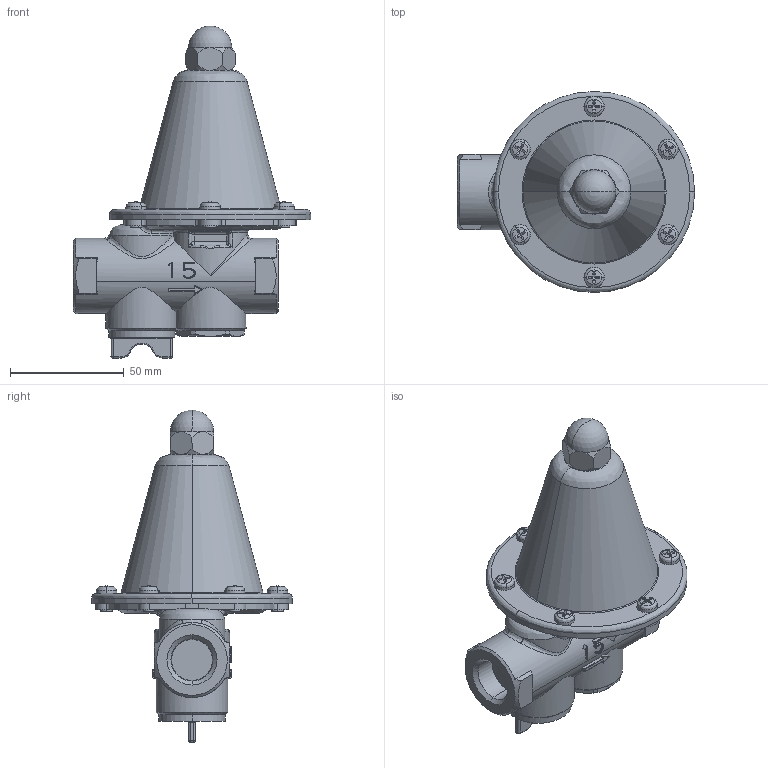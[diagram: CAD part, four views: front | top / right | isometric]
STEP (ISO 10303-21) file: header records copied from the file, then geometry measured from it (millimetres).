
FILE_DESCRIPTION( (''), '2;1');
FILE_NAME ('PC1056.968.GD-15(15A)_10084.stp','2024-08-30T15:40:12',(''),(''),'spGate 19.8.4 (****-****-****-****)','','');
FILE_SCHEMA (('AUTOMOTIVE_DESIGN'));
Length unit declared in the file: millimetre
Products named in the file (4): Assembly; GD-15(15A)弁箱P; CP_''_JIS B 1183 六角袋ナット 1形 M''_704; CP_ナベ''_JIS B 1111 なべ小ねじ M5x8_726
Assembly tree (8 placements, depth 2):
  Assembly
    GD-15(15A)弁箱P
    CP_''_JIS B 1183 六角袋ナット 1形 M''_704
    CP_ナベ''_JIS B 1111 なべ小ねじ M5x8_726  x6
Bounding box: 104.1 x 88.2 x 145.7 mm (x, y, z)
Volume: 152773.8 mm3; surface area: 54533.6 mm2
Topology: 8 solids, 8 shells, 640 faces, 1558 edges, 927 vertices
Faces by surface type: plane 267, bspline 200, cylinder 159, sphere 14
Entity records: 25644 total; most frequent: CARTESIAN_POINT 7355, ORIENTED_EDGE 2160, DIRECTION 1832, COLOUR_RGB 1523, PRESENTATION_STYLE_ASSIGNMENT 1523, STYLED_ITEM 1523, EDGE_CURVE 1080, DRAUGHTING_PRE_DEFINED_CURVE_FONT 1080
